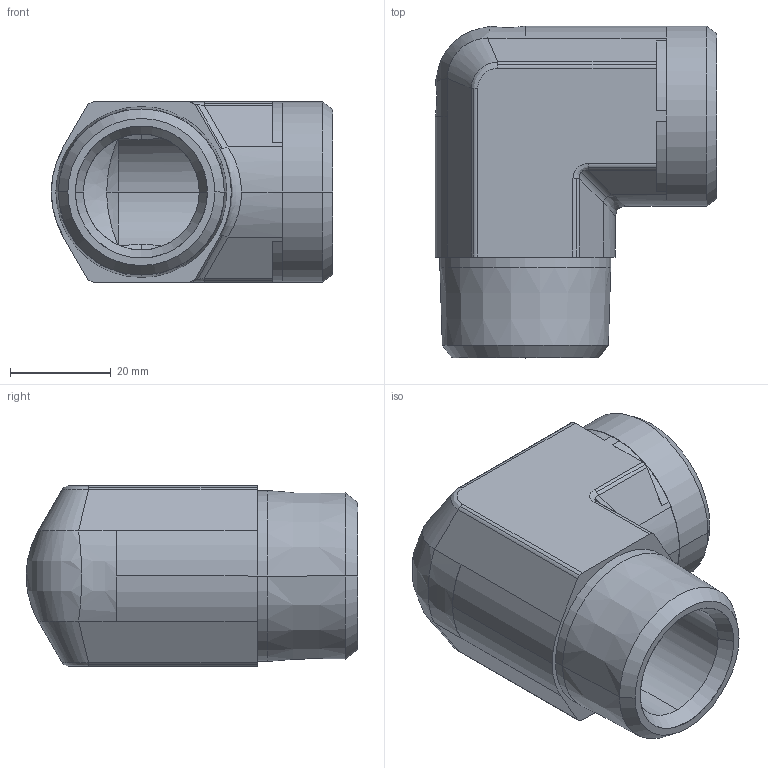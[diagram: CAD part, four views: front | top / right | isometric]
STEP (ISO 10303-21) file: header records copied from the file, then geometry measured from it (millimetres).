
FILE_DESCRIPTION((''),'2;1');
FILE_NAME('102011.stp','2007-10-30T16:28:43',(''),(''),'AutoCAD STEP 2000i','AutoCAD 2000i',', , ');
FILE_SCHEMA(('CONFIG_CONTROL_DESIGN'));
Length unit declared in the file: millimetre
Products named in the file (2): 102011.0; 3090#0
Assembly tree (1 placements, depth 2):
  102011.0
    3090#0
Bounding box: 55.88 x 65.91 x 35.82 mm (x, y, z)
Volume: 48113 mm3; surface area: 16921.7 mm2
Topology: 1 solids, 1 shells, 105 faces, 254 edges, 155 vertices
Faces by surface type: cylinder 46, plane 26, cone 19, bspline 14
Entity records: 4135 total; most frequent: CARTESIAN_POINT 1577, DIRECTION 532, ORIENTED_EDGE 508, EDGE_CURVE 254, AXIS2_PLACEMENT_3D 214, VERTEX_POINT 155, CIRCLE 111, EDGE_LOOP 111
